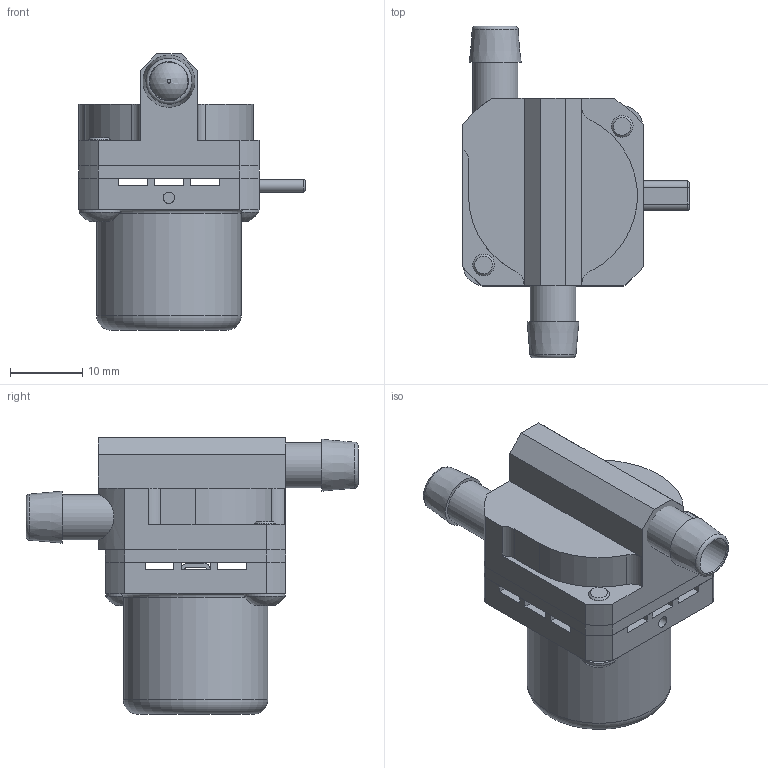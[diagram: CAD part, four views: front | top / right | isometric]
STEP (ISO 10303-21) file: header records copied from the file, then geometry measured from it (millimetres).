
FILE_DESCRIPTION (( 'STEP AP203' ), '1' );
FILE_NAME ('M400S -180 REV1.STEP', '2020-06-10T08:14:14', ( '' ), ( '' ), 'SwSTEP 2.0', 'SolidWorks 2016', '' );
FILE_SCHEMA (( 'CONFIG_CONTROL_DESIGN' ));
Length unit declared in the file: millimetre
Products named in the file (8): P-0077; P-1376; P-0079; P-0078_180; M400S -180 REV1; P-0053; P-0104; P-0081_B18.3.4M - 3 x 0.5 x 5 SBHCS --C
Assembly tree (9 placements, depth 2):
  M400S -180 REV1
    P-0079
    P-0078_180
    P-0077  x2
    P-0053
    P-0104
    P-1376
    P-0081_B18.3.4M - 3 x 0.5 x 5 SBHCS --C  x2
Bounding box: 31.39 x 46 x 38.3 mm (x, y, z)
Volume: 5792.4 mm3; surface area: 10408 mm2
Topology: 9 solids, 9 shells, 195 faces, 483 edges, 315 vertices
Faces by surface type: plane 122, cylinder 50, cone 11, torus 9, sphere 3
Full cylindrical faces by diameter (mm): 1.6 x1, 2.5 x2, 3 x2, 3.1 x4, 4.52 x1, 5.3 x2, 5.4 x1, 5.7 x2, 6 x1, 6.2 x1, 6.3 x2, 6.35 x2, 18.7 x1, 20 x1, 22.2 x1, 23.8 x1
Entity records: 5884 total; most frequent: CARTESIAN_POINT 1006, DIRECTION 856, ORIENTED_EDGE 756, EDGE_CURVE 378, AXIS2_PLACEMENT_3D 306, VERTEX_POINT 266, LINE 244, VECTOR 244
